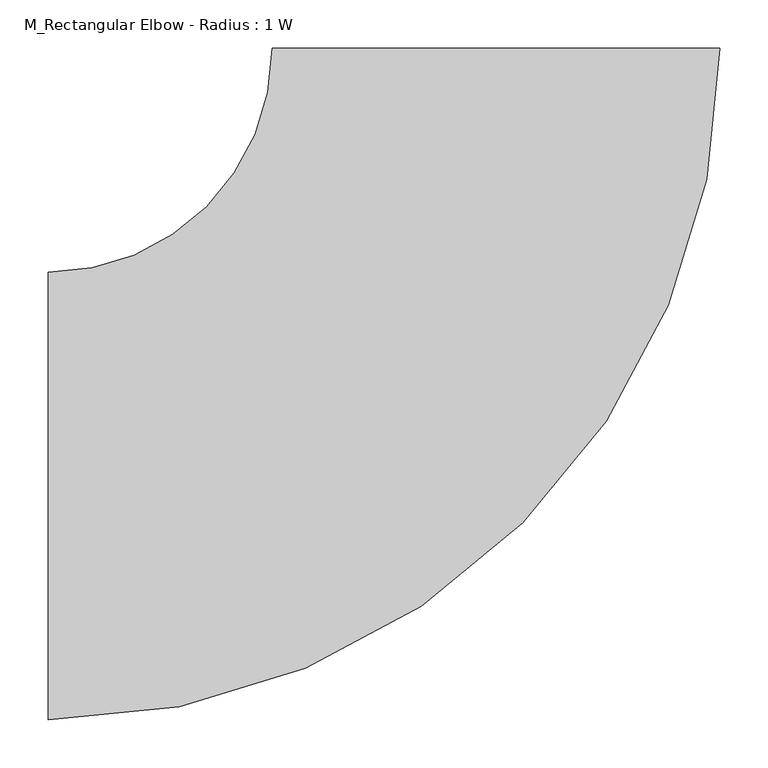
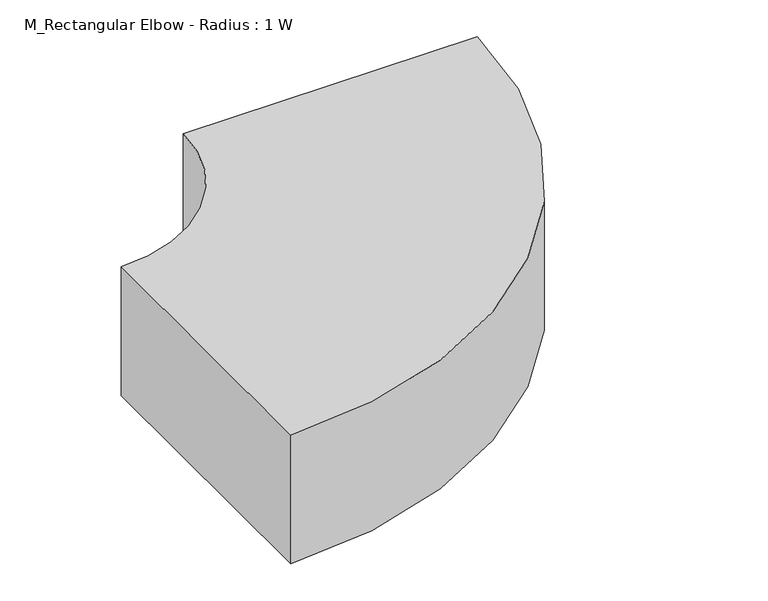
"""IFC4 building model written with IfcOpenShell, lengths in millimetres: duct fitting geometry, M_Rectangular Elbow - Radius : 1 W."""

from ifc_helpers import new_model, si_unit, point, frame, frame_2d, origin, place, context, project, spatial, polyline, circle_curve, trimmed, segment, composite_curve, outline, extrude, source, transform, mapped, element, save


def m_rectangular_elbow_radius_1_w_54c96895(model_context):
    return source(origin(), model_context, "Body", "SweptSolid", [
        extrude(outline(composite_curve([segment(trimmed(circle_curve(frame_2d((-461.875, 461.875)), 692.8125), [point((230.9375, 461.875))], [point((-461.875, -230.9375))], False, "CARTESIAN"), True, "CONTINUOUS"), segment(polyline([(-461.875, -230.9375), (-461.875, 230.9375)]), True, "CONTINUOUS"), segment(trimmed(circle_curve(frame_2d((-461.875, 461.875)), 230.9375), [point((-461.875, 230.9375))], [point((-230.9375, 461.875))], True, "CARTESIAN"), True, "CONTINUOUS"), segment(polyline([(-230.9375, 461.875), (230.9375, 461.875)]), True, "CONTINUOUS")], self_intersect=False)), frame((0.0, 0.0, -107.15), z_axis=(0.0, 0.0, 1.0), x_axis=(1.0, 0.0, 0.0)), (0.0, 0.0, 1.0), 214.3),
    ])


if __name__ == "__main__":
    model = new_model("IFC4")
    model_context = context("Model", 3, world=origin())
    ifc_project = project(units=[si_unit("LENGTHUNIT", "METRE", prefix="MILLI")], contexts=[model_context])
    site = spatial("IfcSite", under=ifc_project)
    building = spatial("IfcBuilding", under=site)
    placement = place(None, origin())
    m_rectangular_elbow_radius_1_w_shape = m_rectangular_elbow_radius_1_w_54c96895(model_context)
    element("IfcDuctFitting", 1, ObjectType="M_Rectangular Elbow - Radius : 1 W", at=placement, inside=building, context=model_context, shape_type="MappedRepresentation", body=[
        mapped(m_rectangular_elbow_radius_1_w_shape, transform((0.0, 0.0, 0.0), x_axis=(1.0, 0.0, 0.0), y_axis=(0.0, 1.0, 0.0), z_axis=(0.0, 0.0, 1.0))),
    ])
    save(model, "model.ifc")
